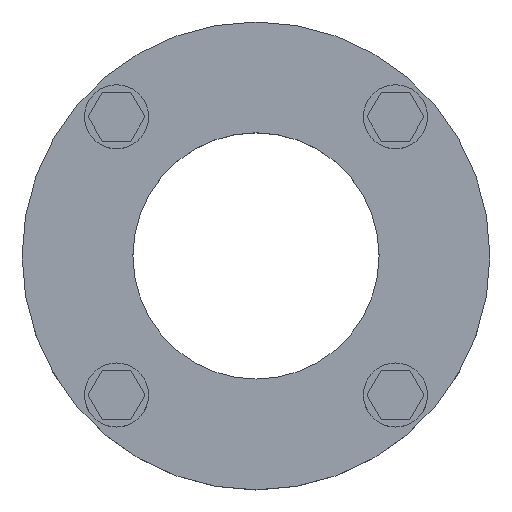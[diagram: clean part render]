
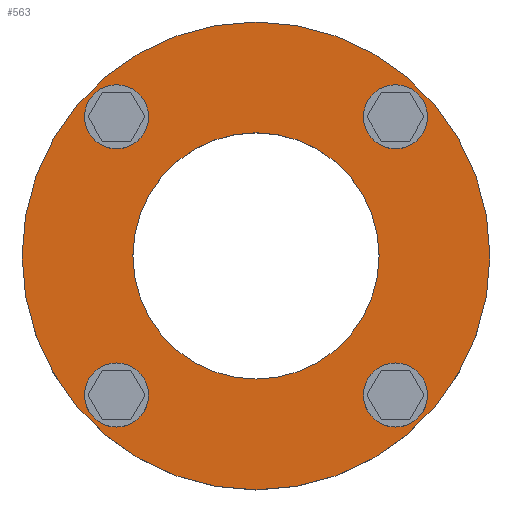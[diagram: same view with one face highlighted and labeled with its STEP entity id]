
A CAD part, top view. The second image highlights one B-rep face of the part: STEP entity #563.
In plain terms, the highlighted planar face has unit normal (0, 0, 1).
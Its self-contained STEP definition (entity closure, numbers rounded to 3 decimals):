
#563=ADVANCED_FACE('',(#739,#740,#741,#742,#743,#744),#685,.T.);
#685=PLANE('',#2080);
#739=FACE_BOUND('',#799,.T.);
#740=FACE_BOUND('',#800,.T.);
#741=FACE_BOUND('',#801,.T.);
#742=FACE_BOUND('',#802,.T.);
#743=FACE_BOUND('',#803,.T.);
#744=FACE_BOUND('',#804,.T.);
#799=EDGE_LOOP('',(#959,#960));
#800=EDGE_LOOP('',(#961,#962));
#801=EDGE_LOOP('',(#963,#964));
#802=EDGE_LOOP('',(#965,#966));
#803=EDGE_LOOP('',(#967,#968));
#804=EDGE_LOOP('',(#969,#970));
#959=ORIENTED_EDGE('',*,*,#1671,.T.);
#960=ORIENTED_EDGE('',*,*,#1672,.T.);
#961=ORIENTED_EDGE('',*,*,#1673,.T.);
#962=ORIENTED_EDGE('',*,*,#1674,.T.);
#963=ORIENTED_EDGE('',*,*,#1675,.T.);
#964=ORIENTED_EDGE('',*,*,#1676,.T.);
#965=ORIENTED_EDGE('',*,*,#1677,.T.);
#966=ORIENTED_EDGE('',*,*,#1678,.T.);
#967=ORIENTED_EDGE('',*,*,#1679,.T.);
#968=ORIENTED_EDGE('',*,*,#1680,.T.);
#969=ORIENTED_EDGE('',*,*,#1681,.T.);
#970=ORIENTED_EDGE('',*,*,#1682,.T.);
#1495=VERTEX_POINT('',#2962);
#1496=VERTEX_POINT('',#2963);
#1497=VERTEX_POINT('',#2966);
#1498=VERTEX_POINT('',#2967);
#1499=VERTEX_POINT('',#2970);
#1500=VERTEX_POINT('',#2971);
#1501=VERTEX_POINT('',#2974);
#1502=VERTEX_POINT('',#2975);
#1503=VERTEX_POINT('',#2978);
#1504=VERTEX_POINT('',#2979);
#1505=VERTEX_POINT('',#2982);
#1506=VERTEX_POINT('',#2983);
#1671=EDGE_CURVE('',#1495,#1496,#1939,.T.);
#1672=EDGE_CURVE('',#1496,#1495,#1940,.T.);
#1673=EDGE_CURVE('',#1497,#1498,#1941,.T.);
#1674=EDGE_CURVE('',#1498,#1497,#1942,.T.);
#1675=EDGE_CURVE('',#1499,#1500,#1943,.T.);
#1676=EDGE_CURVE('',#1500,#1499,#1944,.T.);
#1677=EDGE_CURVE('',#1501,#1502,#1945,.T.);
#1678=EDGE_CURVE('',#1502,#1501,#1946,.T.);
#1679=EDGE_CURVE('',#1503,#1504,#1947,.T.);
#1680=EDGE_CURVE('',#1504,#1503,#1948,.T.);
#1681=EDGE_CURVE('',#1505,#1506,#1949,.T.);
#1682=EDGE_CURVE('',#1506,#1505,#1950,.T.);
#1939=CIRCLE('',#2068,47.5);
#1940=CIRCLE('',#2069,47.5);
#1941=CIRCLE('',#2070,4.5);
#1942=CIRCLE('',#2071,4.5);
#1943=CIRCLE('',#2072,4.5);
#1944=CIRCLE('',#2073,4.5);
#1945=CIRCLE('',#2074,4.5);
#1946=CIRCLE('',#2075,4.5);
#1947=CIRCLE('',#2076,4.5);
#1948=CIRCLE('',#2077,4.5);
#1949=CIRCLE('',#2078,25.);
#1950=CIRCLE('',#2079,25.);
#2068=AXIS2_PLACEMENT_3D('',#2961,#2320,#2321);
#2069=AXIS2_PLACEMENT_3D('',#2964,#2322,#2323);
#2070=AXIS2_PLACEMENT_3D('',#2965,#2324,#2325);
#2071=AXIS2_PLACEMENT_3D('',#2968,#2326,#2327);
#2072=AXIS2_PLACEMENT_3D('',#2969,#2328,#2329);
#2073=AXIS2_PLACEMENT_3D('',#2972,#2330,#2331);
#2074=AXIS2_PLACEMENT_3D('',#2973,#2332,#2333);
#2075=AXIS2_PLACEMENT_3D('',#2976,#2334,#2335);
#2076=AXIS2_PLACEMENT_3D('',#2977,#2336,#2337);
#2077=AXIS2_PLACEMENT_3D('',#2980,#2338,#2339);
#2078=AXIS2_PLACEMENT_3D('',#2981,#2340,#2341);
#2079=AXIS2_PLACEMENT_3D('',#2984,#2342,#2343);
#2080=AXIS2_PLACEMENT_3D('',#2985,#2344,#2345);
#2320=DIRECTION('',(0.,0.,1.));
#2321=DIRECTION('',(1.,0.,0.));
#2322=DIRECTION('',(0.,0.,1.));
#2323=DIRECTION('',(-1.,0.,0.));
#2324=DIRECTION('',(0.,0.,-1.));
#2325=DIRECTION('',(-1.,0.,0.));
#2326=DIRECTION('',(0.,0.,-1.));
#2327=DIRECTION('',(1.,0.,0.));
#2328=DIRECTION('',(0.,0.,-1.));
#2329=DIRECTION('',(-1.,0.,0.));
#2330=DIRECTION('',(0.,0.,-1.));
#2331=DIRECTION('',(1.,0.,0.));
#2332=DIRECTION('',(0.,0.,-1.));
#2333=DIRECTION('',(-1.,0.,0.));
#2334=DIRECTION('',(0.,0.,-1.));
#2335=DIRECTION('',(1.,0.,0.));
#2336=DIRECTION('',(0.,0.,-1.));
#2337=DIRECTION('',(-1.,0.,0.));
#2338=DIRECTION('',(0.,0.,-1.));
#2339=DIRECTION('',(1.,0.,0.));
#2340=DIRECTION('',(0.,0.,-1.));
#2341=DIRECTION('',(-1.,0.,0.));
#2342=DIRECTION('',(0.,0.,-1.));
#2343=DIRECTION('',(1.,0.,0.));
#2344=DIRECTION('',(0.,0.,1.));
#2345=DIRECTION('',(0.,-1.,0.));
#2961=CARTESIAN_POINT('',(0.,0.,13.));
#2962=CARTESIAN_POINT('',(0.,47.5,13.));
#2963=CARTESIAN_POINT('',(0.,-47.5,13.));
#2964=CARTESIAN_POINT('',(0.,0.,13.));
#2965=CARTESIAN_POINT('',(28.319,-28.25,13.));
#2966=CARTESIAN_POINT('',(28.319,-23.75,13.));
#2967=CARTESIAN_POINT('',(28.319,-32.75,13.));
#2968=CARTESIAN_POINT('',(28.319,-28.25,13.));
#2969=CARTESIAN_POINT('',(28.319,28.25,13.));
#2970=CARTESIAN_POINT('',(28.319,32.75,13.));
#2971=CARTESIAN_POINT('',(28.319,23.75,13.));
#2972=CARTESIAN_POINT('',(28.319,28.25,13.));
#2973=CARTESIAN_POINT('',(-28.319,28.25,13.));
#2974=CARTESIAN_POINT('',(-28.319,32.75,13.));
#2975=CARTESIAN_POINT('',(-28.319,23.75,13.));
#2976=CARTESIAN_POINT('',(-28.319,28.25,13.));
#2977=CARTESIAN_POINT('',(-28.319,-28.25,13.));
#2978=CARTESIAN_POINT('',(-28.319,-23.75,13.));
#2979=CARTESIAN_POINT('',(-28.319,-32.75,13.));
#2980=CARTESIAN_POINT('',(-28.319,-28.25,13.));
#2981=CARTESIAN_POINT('',(0.,0.,13.));
#2982=CARTESIAN_POINT('',(0.,25.,13.));
#2983=CARTESIAN_POINT('',(0.,-25.,13.));
#2984=CARTESIAN_POINT('',(0.,0.,13.));
#2985=CARTESIAN_POINT('',(47.5,0.,13.));
